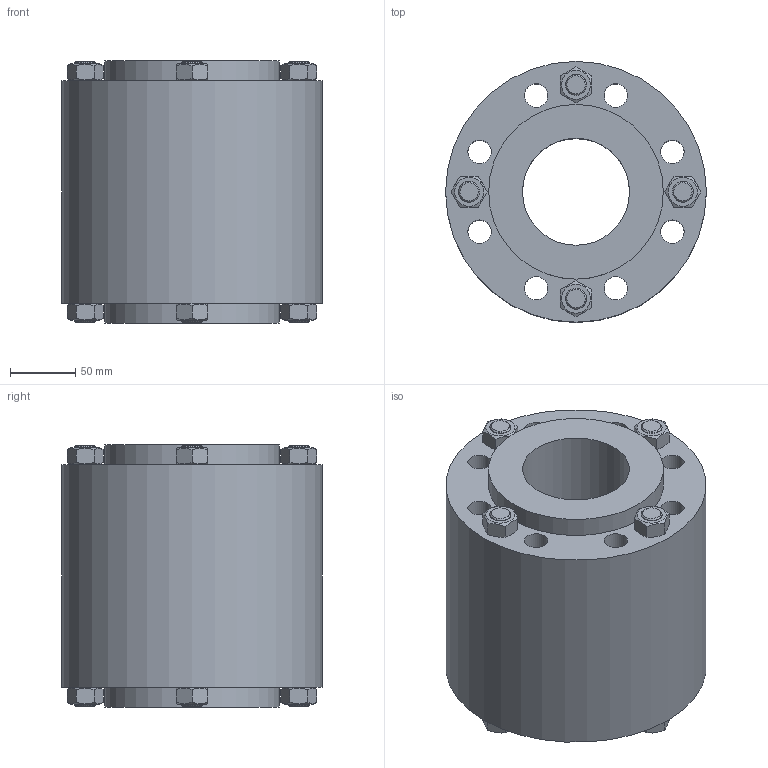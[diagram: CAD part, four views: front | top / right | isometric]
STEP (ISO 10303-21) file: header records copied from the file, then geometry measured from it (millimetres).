
FILE_DESCRIPTION(/* description */ ('ACI TYPE 620 DN80'),/* implementation_level */ '2;1');
FILE_NAME(/* name */ 'C:\Users\willms\Desktop\ACI-620-80.stp',/* time_stamp */ '2020-03-19T10:28:44+01:00',/* author */ ('götz'),/* organization */ ('ACI Industriearmaturen GmbH www.aci24.com info@aci24.com'),/* preprocessor_version */ 'ST-DEVELOPER v16.1',/* originating_system */ 'Autodesk Inventor 2016',/* authorisation */ 'ACI Industriearmaturen GmbH www.aci24.com info@aci24.com');
FILE_SCHEMA (('CONFIG_CONTROL_DESIGN'));
Length unit declared in the file: centimetre
Products named in the file (1): ACI-620-80
Bounding box: 200 x 200 x 201 mm (x, y, z)
Volume: 4438800.9 mm3; surface area: 307296.4 mm2
Topology: 1 solids, 9 shells, 144 faces, 325 edges, 209 vertices
Faces by surface type: plane 76, cone 40, cylinder 28
Full cylindrical faces by diameter (mm): 16 x16, 18 x8, 82 x1, 134 x2, 200 x1
Entity records: 3638 total; most frequent: CARTESIAN_POINT 769, DIRECTION 530, ORIENTED_EDGE 480, EDGE_LOOP 256, AXIS2_PLACEMENT_3D 241, EDGE_CURVE 240, VERTEX_POINT 192, FACE_OUTER_BOUND 144
